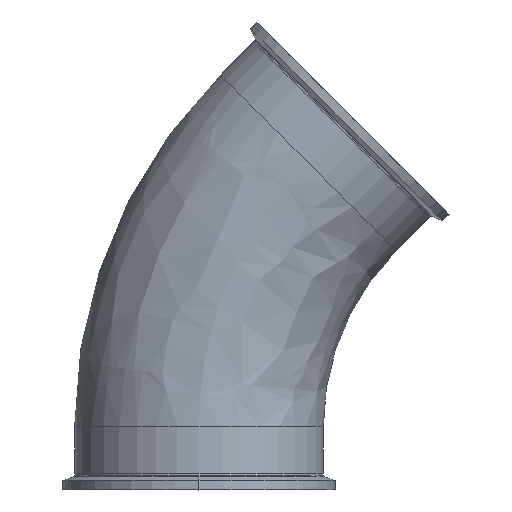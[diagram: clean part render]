
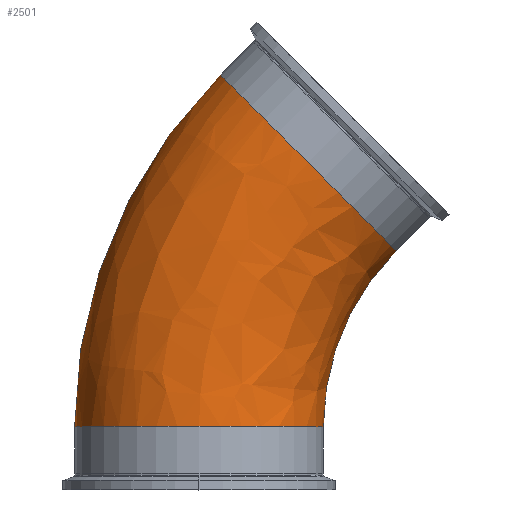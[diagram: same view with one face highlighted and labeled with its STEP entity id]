
A CAD part, top view. The second image highlights one B-rep face of the part: STEP entity #2501.
In plain terms, the highlighted free-form (B-spline) face has degree [3, 3] with [4, 4] control points.
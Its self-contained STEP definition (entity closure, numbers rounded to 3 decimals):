
#2 = DIRECTION ( 'NONE',  ( -0.707, -0.707, 0. ) ) ;
#184 = CARTESIAN_POINT ( 'NONE',  ( 76.2, 69.67, 152.4 ) ) ;
#298 = CARTESIAN_POINT ( 'NONE',  ( 0., 28.711, 0. ) ) ;
#310 = DIRECTION ( 'NONE',  ( 0., 1., 0. ) ) ;
#311 = CIRCLE ( 'NONE', #983, 304.8 ) ;
#357 = EDGE_LOOP ( 'NONE', ( #3049, #2173, #2073, #3730 ) ) ;
#438 = DIRECTION ( 'NONE',  ( -1., 0., 0. ) ) ;
#441 = EDGE_CURVE ( 'NONE', #776, #2901, #2363, .T. ) ;
#482 = CARTESIAN_POINT ( 'NONE',  ( 120.837, 136.474, 152.4 ) ) ;
#500 = AXIS2_PLACEMENT_3D ( 'NONE', #298, #310, #438 ) ;
#506 = VERTEX_POINT ( 'NONE', #3375 ) ;
#776 = VERTEX_POINT ( 'NONE', #2283 ) ;
#784 = CARTESIAN_POINT ( 'NONE',  ( -76.2, 28.711, 0. ) ) ;
#796 = CARTESIAN_POINT ( 'NONE',  ( 76.2, 69.67, 0. ) ) ;
#983 = AXIS2_PLACEMENT_3D ( 'NONE', #1709, #1480, #1464 ) ;
#1090 = CARTESIAN_POINT ( 'NONE',  ( -44.851, 186.312, 0. ) ) ;
#1102 = CARTESIAN_POINT ( 'NONE',  ( 120.837, 136.474, 0. ) ) ;
#1296 = CIRCLE ( 'NONE', #2294, 76.2 ) ;
#1360 = EDGE_CURVE ( 'NONE', #776, #3879, #311, .T. ) ;
#1412 = AXIS2_PLACEMENT_3D ( 'NONE', #2386, #2400, #2682 ) ;
#1415 = CARTESIAN_POINT ( 'NONE',  ( -76.2, 28.711, 152.4 ) ) ;
#1464 = DIRECTION ( 'NONE',  ( -1., 0., 0. ) ) ;
#1480 = DIRECTION ( 'NONE',  ( 0., 0., -1. ) ) ;
#1499 = EDGE_CURVE ( 'NONE', #2901, #506, #1672, .T. ) ;
#1672 = CIRCLE ( 'NONE', #1412, 152.4 ) ;
#1709 = CARTESIAN_POINT ( 'NONE',  ( 228.6, 28.711, 0. ) ) ;
#1738 = CARTESIAN_POINT ( 'NONE',  ( -44.851, 186.312, 152.4 ) ) ;
#1876 = CARTESIAN_POINT ( 'NONE',  ( 66.955, 190.355, 0. ) ) ;
#2062 = CARTESIAN_POINT ( 'NONE',  ( 76.2, 28.711, 152.4 ) ) ;
#2073 = ORIENTED_EDGE ( 'NONE', *, *, #3459, .T. ) ;
#2173 = ORIENTED_EDGE ( 'NONE', *, *, #1499, .T. ) ;
#2197 = DIRECTION ( 'NONE',  ( -0.707, 0.707, 0. ) ) ;
#2283 = CARTESIAN_POINT ( 'NONE',  ( -76.2, 28.711, 0. ) ) ;
#2294 = AXIS2_PLACEMENT_3D ( 'NONE', #1876, #2, #2197 ) ;
#2363 = CIRCLE ( 'NONE', #500, 76.2 ) ;
#2379 = CARTESIAN_POINT ( 'NONE',  ( 91.874, 107.511, 152.4 ) ) ;
#2386 = CARTESIAN_POINT ( 'NONE',  ( 228.6, 28.711, 0. ) ) ;
#2400 = DIRECTION ( 'NONE',  ( 0., 0., -1. ) ) ;
#2501 = ADVANCED_FACE ( 'NONE', ( #3896 ), #3381, .T. ) ;
#2645 = CARTESIAN_POINT ( 'NONE',  ( 76.2, 28.711, 0. ) ) ;
#2682 = DIRECTION ( 'NONE',  ( -1., 0., 0. ) ) ;
#2684 = CARTESIAN_POINT ( 'NONE',  ( 76.2, 28.711, 0. ) ) ;
#2901 = VERTEX_POINT ( 'NONE', #2645 ) ;
#2970 = CARTESIAN_POINT ( 'NONE',  ( -76.2, 110.629, 0. ) ) ;
#2998 = CARTESIAN_POINT ( 'NONE',  ( 91.874, 107.511, 0. ) ) ;
#3049 = ORIENTED_EDGE ( 'NONE', *, *, #441, .T. ) ;
#3301 = CARTESIAN_POINT ( 'NONE',  ( 13.074, 244.237, 0. ) ) ;
#3375 = CARTESIAN_POINT ( 'NONE',  ( 120.837, 136.474, 0. ) ) ;
#3381 =( BOUNDED_SURFACE ( )  B_SPLINE_SURFACE ( 3, 3, ( 
 ( #784, #2970, #1090, #3301 ),
 ( #1415, #3603, #1738, #3920 ),
 ( #2062, #184, #2379, #482 ),
 ( #2684, #796, #2998, #1102 ) ),
 .UNSPECIFIED., .F., .F., .F. ) 
 B_SPLINE_SURFACE_WITH_KNOTS ( ( 4, 4 ),
 ( 4, 4 ),
 ( 0., 1. ),
 ( 0., 1. ),
 .UNSPECIFIED. ) 
 GEOMETRIC_REPRESENTATION_ITEM ( )  RATIONAL_B_SPLINE_SURFACE ( (
 ( 1., 0.949, 0.949, 1.),
 ( 0.333, 0.316, 0.316, 0.333),
 ( 0.333, 0.316, 0.316, 0.333),
 ( 1., 0.949, 0.949, 1.) ) ) 
 REPRESENTATION_ITEM ( '' )  SURFACE ( )  );
#3459 = EDGE_CURVE ( 'NONE', #506, #3879, #1296, .T. ) ;
#3603 = CARTESIAN_POINT ( 'NONE',  ( -76.2, 110.629, 152.4 ) ) ;
#3730 = ORIENTED_EDGE ( 'NONE', *, *, #1360, .F. ) ;
#3879 = VERTEX_POINT ( 'NONE', #3900 ) ;
#3896 = FACE_OUTER_BOUND ( 'NONE', #357, .T. ) ;
#3900 = CARTESIAN_POINT ( 'NONE',  ( 13.074, 244.237, 0. ) ) ;
#3920 = CARTESIAN_POINT ( 'NONE',  ( 13.074, 244.237, 152.4 ) ) ;
